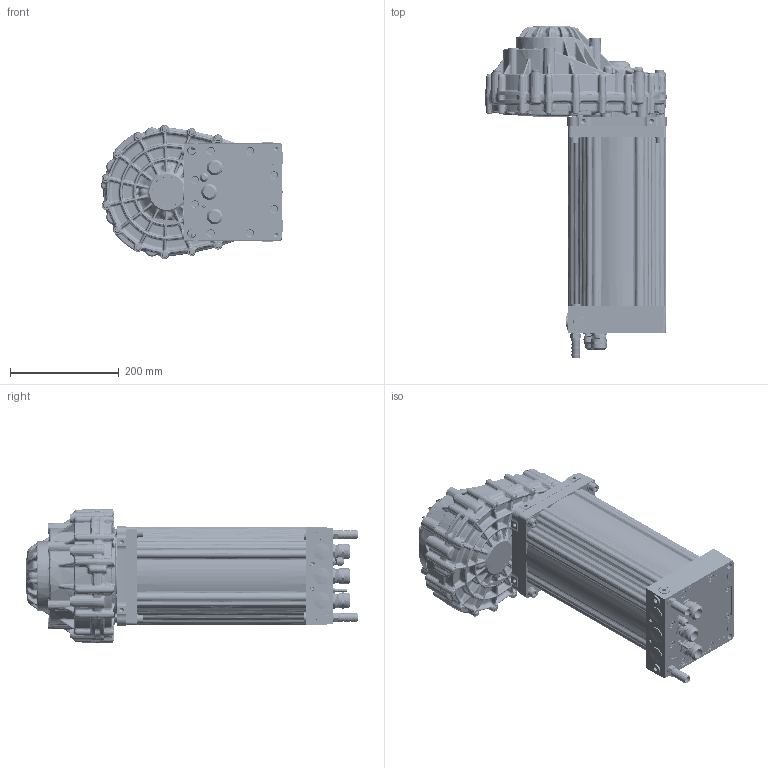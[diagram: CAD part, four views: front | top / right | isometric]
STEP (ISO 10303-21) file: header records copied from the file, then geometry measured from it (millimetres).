
FILE_DESCRIPTION(('CATIA V5 STEP Exchange'),'2;1');
FILE_NAME('R:\180___SWIND_PRODUCTS\001___R&D\002___DESIGN_FILES\180-100-031___HPD-L_240_DRIVE_UNIT_2WD\180-100-031.00___HPD-L_240_DRIVE_UNIT_2WD.stp','2022-06-27T07:52:18+00:00',('none'),('none'),'CATIA Version 5 Release 20 GA (IN-10)','CATIA V5 STEP AP203','none');
FILE_SCHEMA(('CONFIG_CONTROL_DESIGN'));
Products named in the file (1): 180-100-031
Bounding box: 335.35 x 609 x 246.26 mm (x, y, z)
Volume: 15986637.5 mm3; surface area: 1007736.1 mm2
Topology: 19 solids, 92 shells, 12498 faces, 30606 edges, 18032 vertices
Faces by surface type: bspline 5820, cylinder 1881, plane 1493, torus 1216, cone 1130, sphere 441, extrusion 440, revolution 77
Entity records: 632269 total; most frequent: CARTESIAN_POINT 412359, ORIENTED_EDGE 60108, EDGE_CURVE 30054, DIRECTION 20256, VERTEX_POINT 18032, B_SPLINE_CURVE_WITH_KNOTS 16770, EDGE_LOOP 12948, ADVANCED_FACE 12498
